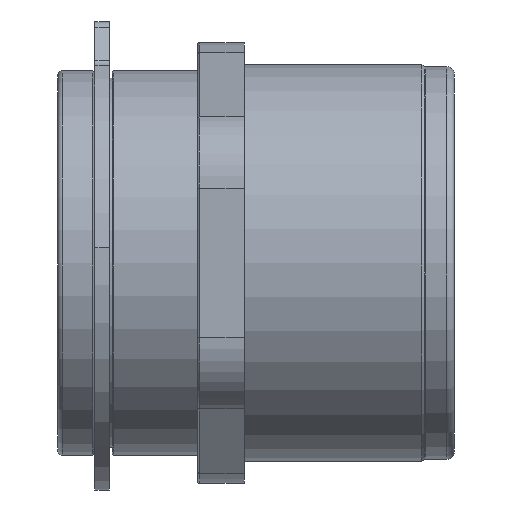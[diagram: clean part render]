
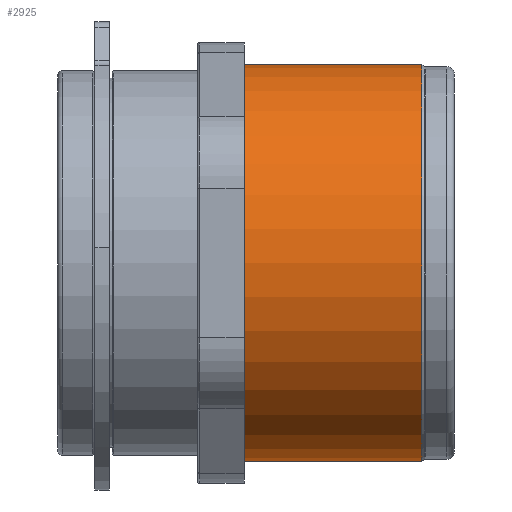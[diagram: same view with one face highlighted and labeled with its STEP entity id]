
A CAD part, left-side view. The second image highlights one B-rep face of the part: STEP entity #2925.
In plain terms, the highlighted cylindrical face has radius 26.979 mm (diameter 53.957 mm), a partial arc.
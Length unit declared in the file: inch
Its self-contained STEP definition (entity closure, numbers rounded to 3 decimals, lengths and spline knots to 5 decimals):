
#27 = EDGE_LOOP ( 'NONE', ( #317, #316, #315, #314 ) ) ;
#314 = ORIENTED_EDGE ( 'NONE', *, *, #905, .F. ) ;
#315 = ORIENTED_EDGE ( 'NONE', *, *, #893, .T. ) ;
#316 = ORIENTED_EDGE ( 'NONE', *, *, #897, .T. ) ;
#317 = ORIENTED_EDGE ( 'NONE', *, *, #888, .F. ) ;
#453 = VECTOR ( 'NONE', #1453, 39.37008 ) ;
#469 = LINE ( 'NONE', #1460, #453 ) ;
#472 = VECTOR ( 'NONE', #1442, 39.37008 ) ;
#476 = LINE ( 'NONE', #1450, #472 ) ;
#484 = CIRCLE ( 'NONE', #802, 1.06215 ) ;
#493 = CIRCLE ( 'NONE', #796, 1.06215 ) ;
#630 = AXIS2_PLACEMENT_3D ( 'NONE', #3245, #3246, #3247 ) ;
#796 = AXIS2_PLACEMENT_3D ( 'NONE', #1417, #1410, #1409 ) ;
#802 = AXIS2_PLACEMENT_3D ( 'NONE', #1436, #1435, #1434 ) ;
#888 = EDGE_CURVE ( 'NONE', #1618, #1659, #469, .T. ) ;
#893 = EDGE_CURVE ( 'NONE', #1713, #1655, #476, .T. ) ;
#897 = EDGE_CURVE ( 'NONE', #1618, #1713, #484, .T. ) ;
#905 = EDGE_CURVE ( 'NONE', #1659, #1655, #493, .T. ) ;
#1409 = DIRECTION ( 'NONE',  ( 0., 0., 1. ) ) ;
#1410 = DIRECTION ( 'NONE',  ( 0., 1., 0. ) ) ;
#1417 = CARTESIAN_POINT ( 'NONE',  ( 0., 0., 0. ) ) ;
#1434 = DIRECTION ( 'NONE',  ( 0., 0., 1. ) ) ;
#1435 = DIRECTION ( 'NONE',  ( 0., 1., 0. ) ) ;
#1436 = CARTESIAN_POINT ( 'NONE',  ( 0., -0.95, 0. ) ) ;
#1442 = DIRECTION ( 'NONE',  ( 0., 1., 0. ) ) ;
#1450 = CARTESIAN_POINT ( 'NONE',  ( 0., -1.125, 1.06215 ) ) ;
#1453 = DIRECTION ( 'NONE',  ( 0., 1., 0. ) ) ;
#1460 = CARTESIAN_POINT ( 'NONE',  ( 0., -1.125, -1.06215 ) ) ;
#1618 = VERTEX_POINT ( 'NONE', #2394 ) ;
#1655 = VERTEX_POINT ( 'NONE', #2431 ) ;
#1659 = VERTEX_POINT ( 'NONE', #2435 ) ;
#1713 = VERTEX_POINT ( 'NONE', #3013 ) ;
#2394 = CARTESIAN_POINT ( 'NONE',  ( 0., -0.95, -1.06215 ) ) ;
#2431 = CARTESIAN_POINT ( 'NONE',  ( 0., 0., 1.06215 ) ) ;
#2435 = CARTESIAN_POINT ( 'NONE',  ( 0., 0., -1.06215 ) ) ;
#2748 = FACE_OUTER_BOUND ( 'NONE', #27, .T. ) ;
#2749 = CYLINDRICAL_SURFACE ( 'NONE', #630, 1.06215 ) ;
#2925 = ADVANCED_FACE ( 'NONE', ( #2748 ), #2749, .T. ) ;
#3013 = CARTESIAN_POINT ( 'NONE',  ( 0., -0.95, 1.06215 ) ) ;
#3245 = CARTESIAN_POINT ( 'NONE',  ( 0., -1.125, 0. ) ) ;
#3246 = DIRECTION ( 'NONE',  ( 0., 1., 0. ) ) ;
#3247 = DIRECTION ( 'NONE',  ( 0., 0., 1. ) ) ;
